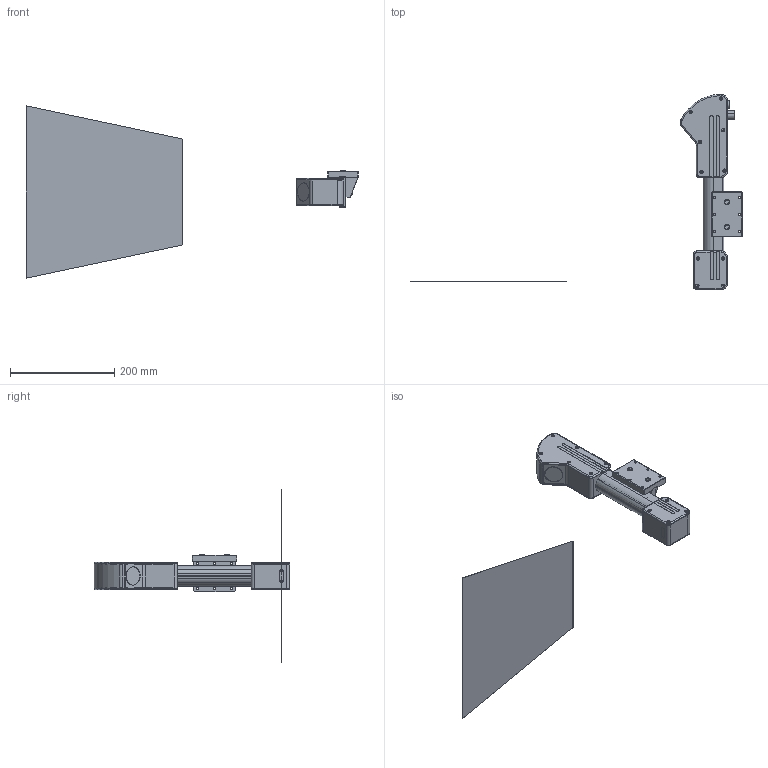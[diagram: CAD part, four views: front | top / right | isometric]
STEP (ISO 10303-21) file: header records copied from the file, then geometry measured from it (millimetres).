
FILE_DESCRIPTION (( 'STEP AP214' ), '1' );
FILE_NAME ('ÐÔ 627.215_300.000_Ñêàíåð áàëî÷íûé 300-êà äëÿ ñàéòà.STEP', '2019-07-02T10:24:30', ( 'test' ), ( 'Ref' ), 'SwSTEP 2.0', 'SolidWorks 2015', '' );
FILE_SCHEMA (( 'AUTOMOTIVE_DESIGN' ));
Length unit declared in the file: millimetre
Products named in the file (37): Êðûøêà ìîäóëÿ ëàçåðà; 膰豵鵨 3 300-罻; 性 625.75_ 袜觌彘赅_觏铒觇; DesignRootModel_1; Âèíò_Ì2õ6; Ñòåêëî Ä35; Submodel-noModelForPart_Binder_09-0428-30-08_3952738181_1; Submodel-noModelForPart_1553488_341613795_1; Âèíò_Ì6õ20; placementOutline_1_2; Ïîëå âèäåíèÿ 300-êà-01  áàëî÷íûé; placementOutline_1_4; Êðîíøòåéí  êðåï¸æíûé çàäíèé 2; uid__27_1; Øàéáà ïðóæèííàÿ_12; Ñòåêëî ìàëîå 23-8; Submodel-FH12-32S-0.5SH_lpar_55_rpar__2555814880_part_FH12-32S-0.5SH_1; ÐÔ 627.215_300.000_Ñêàíåð áàëî÷íûé 300-êà äëÿ ñàéòà; Áîëò_Ì12õ40; Submodel-Binder_09-0428-30-08_3952738181_part_Binder_09-0428-30-08_1; Âèíò_Ì3x10 â ïîòàé; Êðûøêà  ëåâàÿ 3 300-êà; 妈眚 篑蜞眍忸黜 DIN 913 M5; Êðîíøòåéí äîïîëíèòåëüíûé 80-12; placementOutline_1; placementOutline_1_3; Âèíò_Ì5õ15; 膰豵鵨 錟谾譇 700-罻; Âèíò_Ì3x8 â ïîòàé; Êðûøêà  ïðàâàÿ 3 300-êà; Submodel-noModelForPart_FH12-32S-0.5SH_lpar_55_rpar__2555814880_1; Ïðîôèëü _40X40_HR - 300-êà; RF627_80_0171 ïîñëåäíÿÿ; Submodel-1553488_341613795_part_PHOENIX_1553488_1; Submodel-FH12-06S-1SH_lpar_55_rpar__1599555785_part_FH12-06S-1SH_1; Submodel-noModelForPart_FH12-06S-1SH_lpar_55_rpar__1599555785_1
Assembly tree (62 placements, depth 6):
  ÐÔ 627.215_300.000_Ñêàíåð áàëî÷íûé 300-êà äëÿ ñàéòà
    RF627_80_0171 ïîñëåäíÿÿ
      DesignRootModel_1
        uid__27_1
        Submodel-1553488_341613795_part_PHOENIX_1553488_1
          Submodel-noModelForPart_1553488_341613795_1
            placementOutline_1
        Submodel-Binder_09-0428-30-08_3952738181_part_Binder_09-0428-30-08_1
          Submodel-noModelForPart_Binder_09-0428-30-08_3952738181_1
            placementOutline_1_2
        Submodel-FH12-06S-1SH_lpar_55_rpar__1599555785_part_FH12-06S-1SH_1  x2
          Submodel-noModelForPart_FH12-06S-1SH_lpar_55_rpar__1599555785_1
            placementOutline_1_3
        Submodel-FH12-32S-0.5SH_lpar_55_rpar__2555814880_part_FH12-32S-0.5SH_1
          Submodel-noModelForPart_FH12-32S-0.5SH_lpar_55_rpar__2555814880_1
            placementOutline_1_4
    性 625.75_ 袜觌彘赅_觏铒觇
    膰豵鵨 錟谾譇 700-罻
    Âèíò_Ì2õ6  x4
    Êðîíøòåéí  êðåï¸æíûé çàäíèé 2
    Êðûøêà ìîäóëÿ ëàçåðà
    妈眚 篑蜞眍忸黜 DIN 913 M5  x2
    Âèíò_Ì3x8 â ïîòàé  x4
    Âèíò_Ì5õ15  x6
    Êðîíøòåéí äîïîëíèòåëüíûé 80-12
    Áîëò_Ì12õ40
    Áîëò_Ì12õ40
    Øàéáà ïðóæèííàÿ_12  x2
    Âèíò_Ì6õ20  x2
    Ñòåêëî Ä35
    Ïðîôèëü _40X40_HR - 300-êà
    膰豵鵨 3 300-罻
    Êðûøêà  ïðàâàÿ 3 300-êà
    Êðûøêà  ëåâàÿ 3 300-êà
    Âèíò_Ì3x10 â ïîòàé  x12
    Ïîëå âèäåíèÿ 300-êà-01  áàëî÷íûé
    Ñòåêëî ìàëîå 23-8
Bounding box: 636 x 374.12 x 330 mm (x, y, z)
Volume: 582129.8 mm3; surface area: 442291.5 mm2
Topology: 54 solids, 54 shells, 1937 faces, 4879 edges, 3097 vertices
Faces by surface type: plane 959, cylinder 587, cone 213, torus 94, bspline 84
Entity records: 53679 total; most frequent: CARTESIAN_POINT 12740, DIRECTION 7622, ORIENTED_EDGE 7578, EDGE_CURVE 3789, AXIS2_PLACEMENT_3D 2596, VERTEX_POINT 2466, LINE 2430, VECTOR 2430
